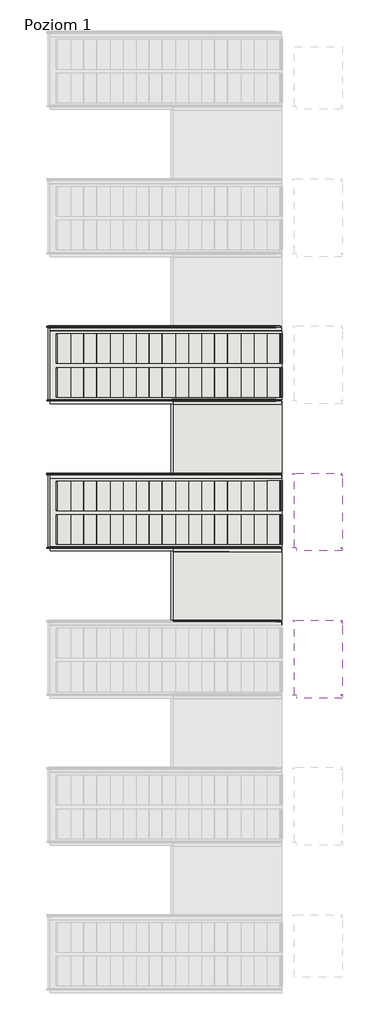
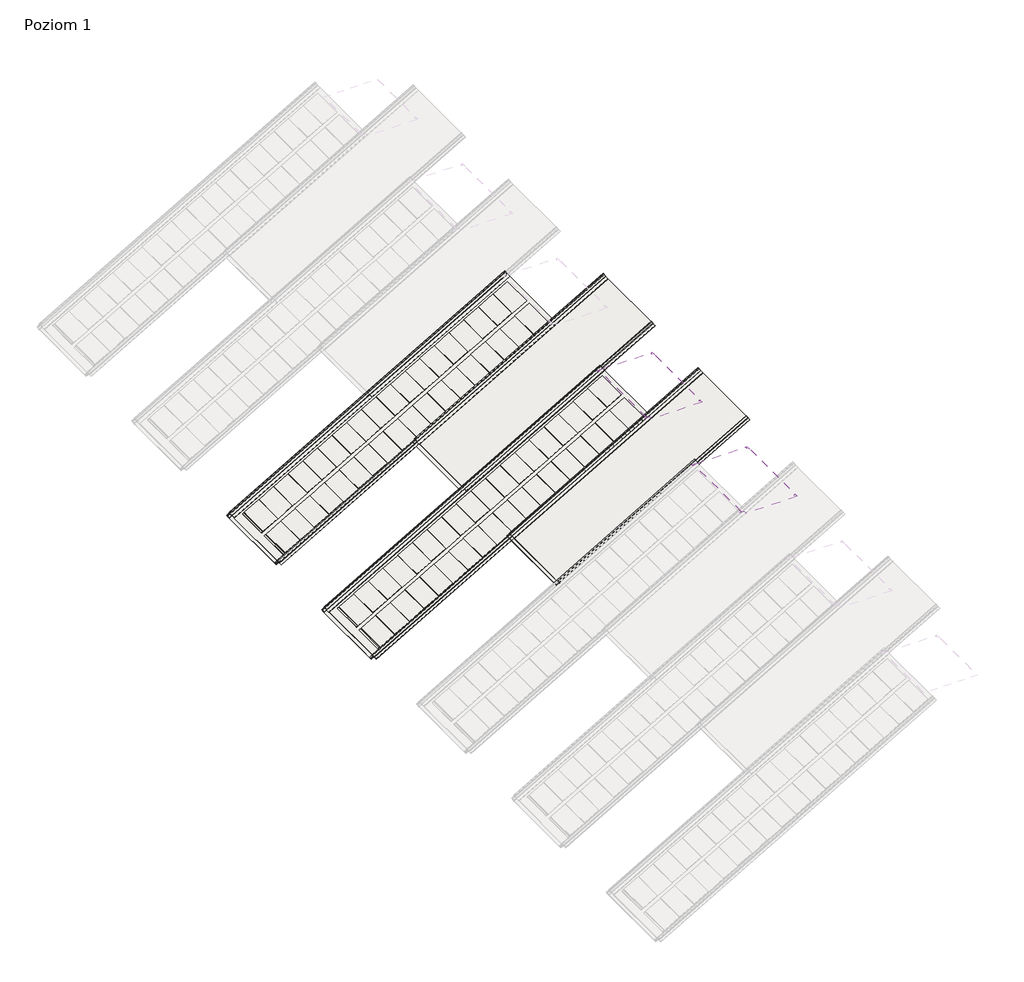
# One storey, part 3 of 5: 6 coverings.
"""IFC4 building model written with IfcOpenShell, lengths in millimetres."""

from ifc_helpers import new_model, si_unit, point, frame, frame_2d, origin, place, context, project, spatial, polyline, circle_curve, trimmed, segment, composite_curve, outline, extrude, transform, mapped, element, save
from components import covering_053faf2b

model = new_model("IFC4")

# Units and contexts
model_context = context("Model", 3, world=origin())
ifc_project = project(units=[si_unit("LENGTHUNIT", "METRE", prefix="MILLI")], contexts=[model_context])

# Site, building, storey
site = spatial("IfcSite", under=ifc_project)
building = spatial("IfcBuilding", under=site)
storey = spatial("IfcBuildingStorey", under=building, Name="Poziom 1", Elevation=3000.0)

# Coverings
placement = place(None, origin())
element("IfcCovering", 1, ObjectType="Zintegrowany dach fotowoltaiczny FIT L.P (pojedynczy arkusz) : Zintegrowany dach fotowoltaiczny FIT L.P (pojedynczy arkusz)", at=placement, inside=storey, context=model_context, shape_type="SweptSolid", body=[
    extrude(outline(composite_curve([segment(polyline([(17.2875351, 0.0), (0.0, 0.0)]), True, "CONTINUOUS"), segment(trimmed(circle_curve(frame_2d((0.0, -2.8)), 2.8), [point((0.0, 0.0))], [point((-2.8, -2.8))], True, "CARTESIAN"), True, "CONTINUOUS"), segment(polyline([(-2.8, -2.8), (-2.8, -20.5940327)]), True, "CONTINUOUS"), segment(trimmed(circle_curve(frame_2d((-4.4133269, -20.3837808)), 1.6269694), [point((-2.8, -20.5940327))], [point((-5.8290282, -21.185541))], False, "CARTESIAN"), True, "CONTINUOUS"), segment(polyline([(-5.8290282, -21.185541), (-11.2859094, -8.622424)]), True, "CONTINUOUS"), segment(trimmed(circle_curve(frame_2d((-9.3224649, -7.4245569)), 2.3), [point((-11.2859094, -8.622424))], [point((-10.3763841, -5.3802344))], False, "CARTESIAN"), True, "CONTINUOUS"), segment(polyline([(-10.3763841, -5.3802344), (-8.7036849, -4.7047108)]), True, "CONTINUOUS"), segment(trimmed(circle_curve(frame_2d((-9.0408607, -3.8698124)), 0.9004126), [point((-8.7036849, -4.7047108))], [point((-8.2514257, -3.4367591))], True, "CARTESIAN"), True, "CONTINUOUS"), segment(polyline([(-8.2514257, -3.4367591), (-10.1366978, 0.0), (-502.4735079, 0.0), (-504.4735079, -2.0), (-527.0645253, -2.0)]), True, "CONTINUOUS"), segment(trimmed(circle_curve(frame_2d((-527.0645253, -2.82435)), 0.82435), [point((-527.0645253, -2.0))], [point((-527.8888753, -2.82435))], True, "CARTESIAN"), True, "CONTINUOUS"), segment(polyline([(-527.8888753, -2.82435), (-527.8888753, -21.4999999)]), True, "CONTINUOUS"), segment(trimmed(circle_curve(frame_2d((-529.8888753, -21.4999999)), 2.0), [point((-527.8888753, -21.4999999))], [point((-529.8888753, -23.5))], False, "CARTESIAN"), True, "CONTINUOUS"), segment(polyline([(-529.8888753, -23.5), (-538.7124649, -23.5)]), True, "CONTINUOUS"), segment(trimmed(circle_curve(frame_2d((-538.7124649, -21.4999999)), 2.0), [point((-538.7124649, -23.5))], [point((-540.7124649, -21.4999999))], False, "CARTESIAN"), True, "CONTINUOUS"), segment(polyline([(-540.7124649, -21.4999999), (-540.7124649, -7.4245569)]), True, "CONTINUOUS"), segment(trimmed(circle_curve(frame_2d((-536.9124649, -7.4245569)), 3.8), [point((-540.7124649, -7.4245569))], [point((-538.602078, -4.0208519))], False, "CARTESIAN"), True, "CONTINUOUS"), segment(trimmed(circle_curve(frame_2d((-539.1177488, -2.9820395)), 1.1597619), [point((-538.602078, -4.0208519))], [point((-537.9725591, -2.798769))], True, "CARTESIAN"), True, "CONTINUOUS"), segment(polyline([(-537.9725591, -2.798769), (-538.8089749, -1.2740237), (-537.9322268, -0.7930739), (-537.1002451, -2.309736)]), True, "CONTINUOUS"), segment(trimmed(circle_curve(frame_2d((-538.6177488, -2.9820395)), 1.6597619), [point((-537.1002451, -2.309736))], [point((-537.8797605, -4.4687078))], False, "CARTESIAN"), True, "CONTINUOUS"), segment(trimmed(circle_curve(frame_2d((-536.4124649, -7.4245569)), 3.3), [point((-537.8797605, -4.4687078))], [point((-539.7124649, -7.4245569))], True, "CARTESIAN"), True, "CONTINUOUS"), segment(polyline([(-539.7124649, -7.4245569), (-539.7124649, -20.9999999)]), True, "CONTINUOUS"), segment(trimmed(circle_curve(frame_2d((-538.2124649, -20.9999999)), 1.5), [point((-539.7124649, -20.9999999))], [point((-538.2124649, -22.4999999))], True, "CARTESIAN"), True, "CONTINUOUS"), segment(polyline([(-538.2124649, -22.4999999), (-530.3888753, -22.4999999)]), True, "CONTINUOUS"), segment(trimmed(circle_curve(frame_2d((-530.3888753, -20.9999999)), 1.5), [point((-530.3888753, -22.4999999))], [point((-528.8888753, -20.9999999))], True, "CARTESIAN"), True, "CONTINUOUS"), segment(polyline([(-528.8888753, -20.9999999), (-528.8888753, -2.7363796)]), True, "CONTINUOUS"), segment(trimmed(circle_curve(frame_2d((-527.09, -2.8)), 1.8), [point((-528.8888753, -2.7363796))], [point((-527.09, -1.0))], False, "CARTESIAN"), True, "CONTINUOUS"), segment(polyline([(-527.09, -1.0), (-504.8877215, -1.0), (-502.8877215, 1.0), (-10.497252, 1.0)]), True, "CONTINUOUS"), segment(trimmed(circle_curve(frame_2d((-10.7205789, -0.9874922)), 2.0), [point((-10.497252, 1.0))], [point((-9.0887306, 0.1688258))], False, "CARTESIAN"), True, "CONTINUOUS"), segment(polyline([(-9.0887306, 0.1688258), (-7.1040334, -3.4491804)]), True, "CONTINUOUS"), segment(trimmed(circle_curve(frame_2d((-8.3318425, -4.1227085)), 1.4004126), [point((-7.1040334, -3.4491804))], [point((-7.8074327, -5.4212269))], False, "CARTESIAN"), True, "CONTINUOUS"), segment(polyline([(-7.8074327, -5.4212269), (-9.9530757, -6.28775)]), True, "CONTINUOUS"), segment(trimmed(circle_curve(frame_2d((-9.3224649, -7.4245569)), 1.3), [point((-9.9530757, -6.28775))], [point((-10.4001629, -8.151583))], True, "CARTESIAN"), True, "CONTINUOUS"), segment(polyline([(-10.4001629, -8.151583), (-4.9378013, -20.7273172)]), True, "CONTINUOUS"), segment(trimmed(circle_curve(frame_2d((-4.4133269, -20.3837808)), 0.6269694), [point((-4.9378013, -20.7273172))], [point((-3.8, -20.5138607))], True, "CARTESIAN"), True, "CONTINUOUS"), segment(polyline([(-3.8, -20.5138607), (-3.8, -2.8)]), True, "CONTINUOUS"), segment(trimmed(circle_curve(frame_2d((0.0, -2.8)), 3.8), [point((-3.8, -2.8))], [point((0.0, 1.0))], False, "CARTESIAN"), True, "CONTINUOUS"), segment(polyline([(0.0, 1.0), (17.2875351, 1.0), (17.2875351, 0.0)]), True, "CONTINUOUS")], self_intersect=False)), frame((597.6506789, -4712.5102619, 4261.5544457), z_axis=(0.8660254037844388, 0.0, 0.4999999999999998), x_axis=(0.0, -1.0, 0.0)), (0.0, 0.0, 1.0), 376.4773133),
    extrude(outline(composite_curve([segment(polyline([(28.1680323, -535.9799253), (40.9033235, -530.4482589)]), True, "CONTINUOUS"), segment(trimmed(circle_curve(frame_2d((41.6303496, -531.525957)), 1.3), [point((40.9033235, -530.4482589))], [point((42.7671565, -530.8953461))], False, "CARTESIAN"), True, "CONTINUOUS"), segment(polyline([(42.7671565, -530.8953461), (43.9725969, -533.8801997)]), True, "CONTINUOUS"), segment(trimmed(circle_curve(frame_2d((44.6041589, -533.6251419)), 0.6811204), [point((43.9725969, -533.8801997))], [point((44.9317436, -534.2223129))], True, "CARTESIAN"), True, "CONTINUOUS"), segment(polyline([(44.9317436, -534.2223129), (49.9999999, -531.442065), (49.9999999, -11.6479396)]), True, "CONTINUOUS"), segment(trimmed(circle_curve(frame_2d((49.17565, -11.6479396)), 0.82435), [point((49.9999999, -11.6479396))], [point((49.17565, -10.8235896))], True, "CARTESIAN"), True, "CONTINUOUS"), segment(polyline([(49.17565, -10.8235896), (30.0, -10.8235896)]), True, "CONTINUOUS"), segment(trimmed(circle_curve(frame_2d((30.0, -8.8235896)), 2.0), [point((30.0, -10.8235896))], [point((28.0, -8.8235896))], False, "CARTESIAN"), True, "CONTINUOUS"), segment(polyline([(28.0, -8.8235896), (28.0, -4.0)]), True, "CONTINUOUS"), segment(trimmed(circle_curve(frame_2d((30.0, -4.0)), 2.0), [point((28.0, -4.0))], [point((30.0, -2.0))], False, "CARTESIAN"), True, "CONTINUOUS"), segment(polyline([(30.0, -2.0), (42.075443, -2.0)]), True, "CONTINUOUS"), segment(trimmed(circle_curve(frame_2d((42.075443, -5.8)), 3.8), [point((42.075443, -2.0))], [point((45.479148, -4.1103869))], False, "CARTESIAN"), True, "CONTINUOUS"), segment(trimmed(circle_curve(frame_2d((46.5179605, -3.5947161)), 1.1597619), [point((45.479148, -4.1103869))], [point((46.7012309, -4.7399058))], True, "CARTESIAN"), True, "CONTINUOUS"), segment(polyline([(46.7012309, -4.7399058), (48.2259762, -3.90349), (48.7069261, -4.7802381), (47.190264, -5.6122198)]), True, "CONTINUOUS"), segment(trimmed(circle_curve(frame_2d((46.5179605, -4.0947161)), 1.6597619), [point((47.190264, -5.6122198))], [point((45.0312921, -4.8327044))], False, "CARTESIAN"), True, "CONTINUOUS"), segment(trimmed(circle_curve(frame_2d((42.075443, -6.3)), 3.3), [point((45.0312921, -4.8327044))], [point((42.075443, -3.0))], True, "CARTESIAN"), True, "CONTINUOUS"), segment(polyline([(42.075443, -3.0), (30.5, -3.0)]), True, "CONTINUOUS"), segment(trimmed(circle_curve(frame_2d((30.5, -4.5)), 1.5), [point((30.5, -3.0))], [point((29.0, -4.5))], True, "CARTESIAN"), True, "CONTINUOUS"), segment(polyline([(29.0, -4.5), (29.0, -8.3235896)]), True, "CONTINUOUS"), segment(trimmed(circle_curve(frame_2d((30.5, -8.3235896)), 1.5), [point((29.0, -8.3235896))], [point((30.5, -9.8235896))], True, "CARTESIAN"), True, "CONTINUOUS"), segment(polyline([(30.5, -9.8235896), (49.2636204, -9.8235896)]), True, "CONTINUOUS"), segment(trimmed(circle_curve(frame_2d((49.1999999, -11.6224649)), 1.8), [point((49.2636204, -9.8235896))], [point((50.9999999, -11.6224649))], False, "CARTESIAN"), True, "CONTINUOUS"), segment(polyline([(50.9999999, -11.6224649), (50.9999999, -530.8500476)]), True, "CONTINUOUS"), segment(trimmed(circle_curve(frame_2d((48.9999999, -530.8500476)), 2.0), [point((50.9999999, -530.8500476))], [point((49.9618997, -532.6035438))], False, "CARTESIAN"), True, "CONTINUOUS"), segment(polyline([(49.9618997, -532.6035438), (45.1357072, -535.2510049)]), True, "CONTINUOUS"), segment(trimmed(circle_curve(frame_2d((44.462179, -534.0231958)), 1.4004126), [point((45.1357072, -535.2510049))], [point((43.1636607, -534.5476056))], False, "CARTESIAN"), True, "CONTINUOUS"), segment(polyline([(43.1636607, -534.5476056), (41.792464, -531.152314), (28.7259873, -536.8278332)]), True, "CONTINUOUS"), segment(trimmed(circle_curve(frame_2d((28.5207601, -536.3553487)), 0.5151308), [point((28.7259873, -536.8278332))], [point((28.1680323, -535.9799253))], False, "CARTESIAN"), True, "CONTINUOUS")], self_intersect=False)), frame((555.8301708, -4171.797797, 4293.9896904), z_axis=(0.8660254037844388, 0.0, 0.4999999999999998), x_axis=(0.4999999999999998, 0.0, -0.8660254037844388)), (0.0, 0.0, 1.0), 30.0),
])
element("IfcCovering", 2, ObjectType="Zintegrowany dach fotowoltaiczny FIT L.P (pojedynczy arkusz) : Zintegrowany dach fotowoltaiczny FIT L.P (pojedynczy arkusz)", at=placement, inside=storey, context=model_context, shape_type="SweptSolid", body=[
    extrude(outline(composite_curve([segment(polyline([(17.2875351, 0.0), (0.0, 0.0)]), True, "CONTINUOUS"), segment(trimmed(circle_curve(frame_2d((0.0, -2.8)), 2.8), [point((0.0, 0.0))], [point((-2.8, -2.8))], True, "CARTESIAN"), True, "CONTINUOUS"), segment(polyline([(-2.8, -2.8), (-2.8, -20.5940327)]), True, "CONTINUOUS"), segment(trimmed(circle_curve(frame_2d((-4.4133269, -20.3837808)), 1.6269694), [point((-2.8, -20.5940327))], [point((-5.8290282, -21.185541))], False, "CARTESIAN"), True, "CONTINUOUS"), segment(polyline([(-5.8290282, -21.185541), (-11.2859094, -8.622424)]), True, "CONTINUOUS"), segment(trimmed(circle_curve(frame_2d((-9.3224649, -7.4245569)), 2.3), [point((-11.2859094, -8.622424))], [point((-10.3763841, -5.3802344))], False, "CARTESIAN"), True, "CONTINUOUS"), segment(polyline([(-10.3763841, -5.3802344), (-8.7036849, -4.7047108)]), True, "CONTINUOUS"), segment(trimmed(circle_curve(frame_2d((-9.0408607, -3.8698124)), 0.9004126), [point((-8.7036849, -4.7047108))], [point((-8.2514257, -3.4367591))], True, "CARTESIAN"), True, "CONTINUOUS"), segment(polyline([(-8.2514257, -3.4367591), (-10.1366978, 0.0), (-502.4735079, 0.0), (-504.4735079, -2.0), (-527.0645253, -2.0)]), True, "CONTINUOUS"), segment(trimmed(circle_curve(frame_2d((-527.0645253, -2.82435)), 0.82435), [point((-527.0645253, -2.0))], [point((-527.8888753, -2.82435))], True, "CARTESIAN"), True, "CONTINUOUS"), segment(polyline([(-527.8888753, -2.82435), (-527.8888753, -21.4999999)]), True, "CONTINUOUS"), segment(trimmed(circle_curve(frame_2d((-529.8888753, -21.4999999)), 2.0), [point((-527.8888753, -21.4999999))], [point((-529.8888753, -23.5))], False, "CARTESIAN"), True, "CONTINUOUS"), segment(polyline([(-529.8888753, -23.5), (-538.7124649, -23.5)]), True, "CONTINUOUS"), segment(trimmed(circle_curve(frame_2d((-538.7124649, -21.4999999)), 2.0), [point((-538.7124649, -23.5))], [point((-540.7124649, -21.4999999))], False, "CARTESIAN"), True, "CONTINUOUS"), segment(polyline([(-540.7124649, -21.4999999), (-540.7124649, -7.4245569)]), True, "CONTINUOUS"), segment(trimmed(circle_curve(frame_2d((-536.9124649, -7.4245569)), 3.8), [point((-540.7124649, -7.4245569))], [point((-538.602078, -4.0208519))], False, "CARTESIAN"), True, "CONTINUOUS"), segment(trimmed(circle_curve(frame_2d((-539.1177488, -2.9820394)), 1.1597619), [point((-538.602078, -4.0208519))], [point((-537.9725591, -2.798769))], True, "CARTESIAN"), True, "CONTINUOUS"), segment(polyline([(-537.9725591, -2.798769), (-538.8089749, -1.2740237), (-537.9322268, -0.7930738), (-537.1002451, -2.3097359)]), True, "CONTINUOUS"), segment(trimmed(circle_curve(frame_2d((-538.6177488, -2.9820394)), 1.6597619), [point((-537.1002451, -2.3097359))], [point((-537.8797605, -4.4687078))], False, "CARTESIAN"), True, "CONTINUOUS"), segment(trimmed(circle_curve(frame_2d((-536.4124649, -7.4245569)), 3.3), [point((-537.8797605, -4.4687078))], [point((-539.7124649, -7.4245569))], True, "CARTESIAN"), True, "CONTINUOUS"), segment(polyline([(-539.7124649, -7.4245569), (-539.7124649, -20.9999999)]), True, "CONTINUOUS"), segment(trimmed(circle_curve(frame_2d((-538.2124649, -20.9999999)), 1.5), [point((-539.7124649, -20.9999999))], [point((-538.2124649, -22.4999999))], True, "CARTESIAN"), True, "CONTINUOUS"), segment(polyline([(-538.2124649, -22.4999999), (-530.3888753, -22.4999999)]), True, "CONTINUOUS"), segment(trimmed(circle_curve(frame_2d((-530.3888753, -20.9999999)), 1.5), [point((-530.3888753, -22.4999999))], [point((-528.8888753, -20.9999999))], True, "CARTESIAN"), True, "CONTINUOUS"), segment(polyline([(-528.8888753, -20.9999999), (-528.8888753, -2.7363796)]), True, "CONTINUOUS"), segment(trimmed(circle_curve(frame_2d((-527.09, -2.8)), 1.8), [point((-528.8888753, -2.7363796))], [point((-527.09, -1.0))], False, "CARTESIAN"), True, "CONTINUOUS"), segment(polyline([(-527.09, -1.0), (-504.8877215, -1.0), (-502.8877215, 1.0), (-10.497252, 1.0)]), True, "CONTINUOUS"), segment(trimmed(circle_curve(frame_2d((-10.7205789, -0.9874921)), 2.0), [point((-10.497252, 1.0))], [point((-9.0887306, 0.1688258))], False, "CARTESIAN"), True, "CONTINUOUS"), segment(polyline([(-9.0887306, 0.1688258), (-7.1040334, -3.4491804)]), True, "CONTINUOUS"), segment(trimmed(circle_curve(frame_2d((-8.3318425, -4.1227085)), 1.4004126), [point((-7.1040334, -3.4491804))], [point((-7.8074327, -5.4212269))], False, "CARTESIAN"), True, "CONTINUOUS"), segment(polyline([(-7.8074327, -5.4212269), (-9.9530757, -6.2877499)]), True, "CONTINUOUS"), segment(trimmed(circle_curve(frame_2d((-9.3224649, -7.4245569)), 1.3), [point((-9.9530757, -6.2877499))], [point((-10.4001629, -8.151583))], True, "CARTESIAN"), True, "CONTINUOUS"), segment(polyline([(-10.4001629, -8.151583), (-4.9378013, -20.7273172)]), True, "CONTINUOUS"), segment(trimmed(circle_curve(frame_2d((-4.4133269, -20.3837808)), 0.6269694), [point((-4.9378013, -20.7273172))], [point((-3.8, -20.5138607))], True, "CARTESIAN"), True, "CONTINUOUS"), segment(polyline([(-3.8, -20.5138607), (-3.8, -2.8)]), True, "CONTINUOUS"), segment(trimmed(circle_curve(frame_2d((0.0, -2.8)), 3.8), [point((-3.8, -2.8))], [point((0.0, 1.0))], False, "CARTESIAN"), True, "CONTINUOUS"), segment(polyline([(0.0, 1.0), (17.2875351, 1.0), (17.2875351, 0.0)]), True, "CONTINUOUS")], self_intersect=False)), frame((-285.695233, -4185.5102619, 3751.5544457), z_axis=(0.8660254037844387, 0.0, 0.49999999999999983), x_axis=(0.0, -1.0, 0.0)), (0.0, 0.0, 1.0), 1396.4773133),
    extrude(outline(composite_curve([segment(polyline([(28.1680322, -535.9799253), (40.9033234, -530.4482589)]), True, "CONTINUOUS"), segment(trimmed(circle_curve(frame_2d((41.6303496, -531.525957)), 1.3), [point((40.9033234, -530.4482589))], [point((42.7671565, -530.8953461))], False, "CARTESIAN"), True, "CONTINUOUS"), segment(polyline([(42.7671565, -530.8953461), (43.9725969, -533.8801997)]), True, "CONTINUOUS"), segment(trimmed(circle_curve(frame_2d((44.6041589, -533.6251419)), 0.6811204), [point((43.9725969, -533.8801997))], [point((44.9317436, -534.2223129))], True, "CARTESIAN"), True, "CONTINUOUS"), segment(polyline([(44.9317436, -534.2223129), (49.9999999, -531.442065), (49.9999999, -11.6479396)]), True, "CONTINUOUS"), segment(trimmed(circle_curve(frame_2d((49.17565, -11.6479396)), 0.82435), [point((49.9999999, -11.6479396))], [point((49.17565, -10.8235896))], True, "CARTESIAN"), True, "CONTINUOUS"), segment(polyline([(49.17565, -10.8235896), (30.0, -10.8235896)]), True, "CONTINUOUS"), segment(trimmed(circle_curve(frame_2d((30.0, -8.8235896)), 2.0), [point((30.0, -10.8235896))], [point((28.0, -8.8235896))], False, "CARTESIAN"), True, "CONTINUOUS"), segment(polyline([(28.0, -8.8235896), (28.0, -4.0)]), True, "CONTINUOUS"), segment(trimmed(circle_curve(frame_2d((30.0, -4.0)), 2.0), [point((28.0, -4.0))], [point((30.0, -2.0))], False, "CARTESIAN"), True, "CONTINUOUS"), segment(polyline([(30.0, -2.0), (42.075443, -2.0)]), True, "CONTINUOUS"), segment(trimmed(circle_curve(frame_2d((42.075443, -5.8)), 3.8), [point((42.075443, -2.0))], [point((45.479148, -4.1103869))], False, "CARTESIAN"), True, "CONTINUOUS"), segment(trimmed(circle_curve(frame_2d((46.5179605, -3.5947161)), 1.1597619), [point((45.479148, -4.1103869))], [point((46.7012308, -4.7399058))], True, "CARTESIAN"), True, "CONTINUOUS"), segment(polyline([(46.7012308, -4.7399058), (48.2259762, -3.90349), (48.706926, -4.7802381), (47.190264, -5.6122198)]), True, "CONTINUOUS"), segment(trimmed(circle_curve(frame_2d((46.5179605, -4.0947161)), 1.6597619), [point((47.190264, -5.6122198))], [point((45.0312921, -4.8327044))], False, "CARTESIAN"), True, "CONTINUOUS"), segment(trimmed(circle_curve(frame_2d((42.075443, -6.3)), 3.3), [point((45.0312921, -4.8327044))], [point((42.075443, -3.0))], True, "CARTESIAN"), True, "CONTINUOUS"), segment(polyline([(42.075443, -3.0), (30.5, -3.0)]), True, "CONTINUOUS"), segment(trimmed(circle_curve(frame_2d((30.5, -4.5)), 1.5), [point((30.5, -3.0))], [point((29.0, -4.5))], True, "CARTESIAN"), True, "CONTINUOUS"), segment(polyline([(29.0, -4.5), (29.0, -8.3235896)]), True, "CONTINUOUS"), segment(trimmed(circle_curve(frame_2d((30.5, -8.3235896)), 1.5), [point((29.0, -8.3235896))], [point((30.5, -9.8235896))], True, "CARTESIAN"), True, "CONTINUOUS"), segment(polyline([(30.5, -9.8235896), (49.2636204, -9.8235896)]), True, "CONTINUOUS"), segment(trimmed(circle_curve(frame_2d((49.1999999, -11.6224649)), 1.8), [point((49.2636204, -9.8235896))], [point((50.9999999, -11.6224649))], False, "CARTESIAN"), True, "CONTINUOUS"), segment(polyline([(50.9999999, -11.6224649), (50.9999999, -530.8500476)]), True, "CONTINUOUS"), segment(trimmed(circle_curve(frame_2d((48.9999999, -530.8500476)), 2.0), [point((50.9999999, -530.8500476))], [point((49.9618996, -532.6035438))], False, "CARTESIAN"), True, "CONTINUOUS"), segment(polyline([(49.9618996, -532.6035438), (45.1357072, -535.2510049)]), True, "CONTINUOUS"), segment(trimmed(circle_curve(frame_2d((44.462179, -534.0231958)), 1.4004126), [point((45.1357072, -535.2510049))], [point((43.1636607, -534.5476056))], False, "CARTESIAN"), True, "CONTINUOUS"), segment(polyline([(43.1636607, -534.5476056), (41.792464, -531.152314), (28.7259872, -536.8278332)]), True, "CONTINUOUS"), segment(trimmed(circle_curve(frame_2d((28.5207601, -536.3553487)), 0.5151308), [point((28.7259872, -536.8278332))], [point((28.1680322, -535.9799253))], False, "CARTESIAN"), True, "CONTINUOUS")], self_intersect=False)), frame((-327.515741, -3644.797797, 3783.9896904), z_axis=(0.8660254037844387, 0.0, 0.49999999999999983), x_axis=(0.49999999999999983, 0.0, -0.8660254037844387)), (0.0, 0.0, 1.0), 30.0),
])
element("IfcCovering", 3, ObjectType="Zintegrowany dach fotowoltaiczny FIT L.P (pojedynczy arkusz) : Zintegrowany dach fotowoltaiczny FIT L.P (pojedynczy arkusz)", at=placement, inside=storey, context=model_context, shape_type="SweptSolid", body=[
    extrude(outline(composite_curve([segment(polyline([(17.2875351, 0.0), (0.0, 0.0)]), True, "CONTINUOUS"), segment(trimmed(circle_curve(frame_2d((0.0, -2.8)), 2.8), [point((0.0, 0.0))], [point((-2.8, -2.8))], True, "CARTESIAN"), True, "CONTINUOUS"), segment(polyline([(-2.8, -2.8), (-2.8, -20.5940327)]), True, "CONTINUOUS"), segment(trimmed(circle_curve(frame_2d((-4.4133269, -20.3837808)), 1.6269694), [point((-2.8, -20.5940327))], [point((-5.8290282, -21.185541))], False, "CARTESIAN"), True, "CONTINUOUS"), segment(polyline([(-5.8290282, -21.185541), (-11.2859094, -8.622424)]), True, "CONTINUOUS"), segment(trimmed(circle_curve(frame_2d((-9.3224649, -7.4245569)), 2.3), [point((-11.2859094, -8.622424))], [point((-10.3763841, -5.3802344))], False, "CARTESIAN"), True, "CONTINUOUS"), segment(polyline([(-10.3763841, -5.3802344), (-8.7036849, -4.7047108)]), True, "CONTINUOUS"), segment(trimmed(circle_curve(frame_2d((-9.0408607, -3.8698124)), 0.9004126), [point((-8.7036849, -4.7047108))], [point((-8.2514257, -3.4367591))], True, "CARTESIAN"), True, "CONTINUOUS"), segment(polyline([(-8.2514257, -3.4367591), (-10.1366978, 0.0), (-502.4735079, 0.0), (-504.4735079, -2.0), (-527.0645253, -2.0)]), True, "CONTINUOUS"), segment(trimmed(circle_curve(frame_2d((-527.0645253, -2.82435)), 0.82435), [point((-527.0645253, -2.0))], [point((-527.8888753, -2.82435))], True, "CARTESIAN"), True, "CONTINUOUS"), segment(polyline([(-527.8888753, -2.82435), (-527.8888753, -21.4999999)]), True, "CONTINUOUS"), segment(trimmed(circle_curve(frame_2d((-529.8888753, -21.4999999)), 2.0), [point((-527.8888753, -21.4999999))], [point((-529.8888753, -23.5))], False, "CARTESIAN"), True, "CONTINUOUS"), segment(polyline([(-529.8888753, -23.5), (-538.7124649, -23.5)]), True, "CONTINUOUS"), segment(trimmed(circle_curve(frame_2d((-538.7124649, -21.4999999)), 2.0), [point((-538.7124649, -23.5))], [point((-540.7124649, -21.4999999))], False, "CARTESIAN"), True, "CONTINUOUS"), segment(polyline([(-540.7124649, -21.4999999), (-540.7124649, -7.4245569)]), True, "CONTINUOUS"), segment(trimmed(circle_curve(frame_2d((-536.9124649, -7.4245569)), 3.8), [point((-540.7124649, -7.4245569))], [point((-538.602078, -4.0208519))], False, "CARTESIAN"), True, "CONTINUOUS"), segment(trimmed(circle_curve(frame_2d((-539.1177488, -2.9820395)), 1.1597619), [point((-538.602078, -4.0208519))], [point((-537.9725591, -2.798769))], True, "CARTESIAN"), True, "CONTINUOUS"), segment(polyline([(-537.9725591, -2.798769), (-538.8089749, -1.2740237), (-537.9322268, -0.7930739), (-537.1002451, -2.309736)]), True, "CONTINUOUS"), segment(trimmed(circle_curve(frame_2d((-538.6177488, -2.9820395)), 1.6597619), [point((-537.1002451, -2.309736))], [point((-537.8797605, -4.4687078))], False, "CARTESIAN"), True, "CONTINUOUS"), segment(trimmed(circle_curve(frame_2d((-536.4124649, -7.4245569)), 3.3), [point((-537.8797605, -4.4687078))], [point((-539.7124649, -7.4245569))], True, "CARTESIAN"), True, "CONTINUOUS"), segment(polyline([(-539.7124649, -7.4245569), (-539.7124649, -20.9999999)]), True, "CONTINUOUS"), segment(trimmed(circle_curve(frame_2d((-538.2124649, -20.9999999)), 1.5), [point((-539.7124649, -20.9999999))], [point((-538.2124649, -22.4999999))], True, "CARTESIAN"), True, "CONTINUOUS"), segment(polyline([(-538.2124649, -22.4999999), (-530.3888753, -22.4999999)]), True, "CONTINUOUS"), segment(trimmed(circle_curve(frame_2d((-530.3888753, -20.9999999)), 1.5), [point((-530.3888753, -22.4999999))], [point((-528.8888753, -20.9999999))], True, "CARTESIAN"), True, "CONTINUOUS"), segment(polyline([(-528.8888753, -20.9999999), (-528.8888753, -2.7363796)]), True, "CONTINUOUS"), segment(trimmed(circle_curve(frame_2d((-527.09, -2.8)), 1.8), [point((-528.8888753, -2.7363796))], [point((-527.09, -1.0))], False, "CARTESIAN"), True, "CONTINUOUS"), segment(polyline([(-527.09, -1.0), (-504.8877215, -1.0), (-502.8877215, 1.0), (-10.497252, 1.0)]), True, "CONTINUOUS"), segment(trimmed(circle_curve(frame_2d((-10.7205789, -0.9874922)), 2.0), [point((-10.497252, 1.0))], [point((-9.0887306, 0.1688258))], False, "CARTESIAN"), True, "CONTINUOUS"), segment(polyline([(-9.0887306, 0.1688258), (-7.1040334, -3.4491804)]), True, "CONTINUOUS"), segment(trimmed(circle_curve(frame_2d((-8.3318425, -4.1227085)), 1.4004126), [point((-7.1040334, -3.4491804))], [point((-7.8074327, -5.4212269))], False, "CARTESIAN"), True, "CONTINUOUS"), segment(polyline([(-7.8074327, -5.4212269), (-9.9530757, -6.28775)]), True, "CONTINUOUS"), segment(trimmed(circle_curve(frame_2d((-9.3224649, -7.4245569)), 1.3), [point((-9.9530757, -6.28775))], [point((-10.4001629, -8.151583))], True, "CARTESIAN"), True, "CONTINUOUS"), segment(polyline([(-10.4001629, -8.151583), (-4.9378013, -20.7273172)]), True, "CONTINUOUS"), segment(trimmed(circle_curve(frame_2d((-4.4133269, -20.3837808)), 0.6269694), [point((-4.9378013, -20.7273172))], [point((-3.8, -20.5138607))], True, "CARTESIAN"), True, "CONTINUOUS"), segment(polyline([(-3.8, -20.5138607), (-3.8, -2.8)]), True, "CONTINUOUS"), segment(trimmed(circle_curve(frame_2d((0.0, -2.8)), 3.8), [point((-3.8, -2.8))], [point((0.0, 1.0))], False, "CARTESIAN"), True, "CONTINUOUS"), segment(polyline([(0.0, 1.0), (17.2875351, 1.0), (17.2875351, 0.0)]), True, "CONTINUOUS")], self_intersect=False)), frame((597.6506789, -3658.5102619, 4261.5544457), z_axis=(0.8660254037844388, 0.0, 0.49999999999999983), x_axis=(0.0, -1.0, 0.0)), (0.0, 0.0, 1.0), 376.4773133),
    extrude(outline(composite_curve([segment(polyline([(28.1680323, -535.9799253), (40.9033235, -530.4482589)]), True, "CONTINUOUS"), segment(trimmed(circle_curve(frame_2d((41.6303496, -531.525957)), 1.3), [point((40.9033235, -530.4482589))], [point((42.7671565, -530.8953461))], False, "CARTESIAN"), True, "CONTINUOUS"), segment(polyline([(42.7671565, -530.8953461), (43.9725969, -533.8801997)]), True, "CONTINUOUS"), segment(trimmed(circle_curve(frame_2d((44.6041589, -533.6251419)), 0.6811204), [point((43.9725969, -533.8801997))], [point((44.9317436, -534.2223129))], True, "CARTESIAN"), True, "CONTINUOUS"), segment(polyline([(44.9317436, -534.2223129), (49.9999999, -531.442065), (49.9999999, -11.6479396)]), True, "CONTINUOUS"), segment(trimmed(circle_curve(frame_2d((49.17565, -11.6479396)), 0.82435), [point((49.9999999, -11.6479396))], [point((49.17565, -10.8235896))], True, "CARTESIAN"), True, "CONTINUOUS"), segment(polyline([(49.17565, -10.8235896), (30.0, -10.8235896)]), True, "CONTINUOUS"), segment(trimmed(circle_curve(frame_2d((30.0, -8.8235896)), 2.0), [point((30.0, -10.8235896))], [point((28.0, -8.8235896))], False, "CARTESIAN"), True, "CONTINUOUS"), segment(polyline([(28.0, -8.8235896), (28.0, -4.0)]), True, "CONTINUOUS"), segment(trimmed(circle_curve(frame_2d((30.0, -4.0)), 2.0), [point((28.0, -4.0))], [point((30.0, -2.0))], False, "CARTESIAN"), True, "CONTINUOUS"), segment(polyline([(30.0, -2.0), (42.075443, -2.0)]), True, "CONTINUOUS"), segment(trimmed(circle_curve(frame_2d((42.075443, -5.8)), 3.8), [point((42.075443, -2.0))], [point((45.479148, -4.1103869))], False, "CARTESIAN"), True, "CONTINUOUS"), segment(trimmed(circle_curve(frame_2d((46.5179605, -3.5947161)), 1.1597619), [point((45.479148, -4.1103869))], [point((46.7012309, -4.7399058))], True, "CARTESIAN"), True, "CONTINUOUS"), segment(polyline([(46.7012309, -4.7399058), (48.2259762, -3.90349), (48.7069261, -4.7802381), (47.190264, -5.6122198)]), True, "CONTINUOUS"), segment(trimmed(circle_curve(frame_2d((46.5179605, -4.0947161)), 1.6597619), [point((47.190264, -5.6122198))], [point((45.0312921, -4.8327044))], False, "CARTESIAN"), True, "CONTINUOUS"), segment(trimmed(circle_curve(frame_2d((42.075443, -6.3)), 3.3), [point((45.0312921, -4.8327044))], [point((42.075443, -3.0))], True, "CARTESIAN"), True, "CONTINUOUS"), segment(polyline([(42.075443, -3.0), (30.5, -3.0)]), True, "CONTINUOUS"), segment(trimmed(circle_curve(frame_2d((30.5, -4.5)), 1.5), [point((30.5, -3.0))], [point((29.0, -4.5))], True, "CARTESIAN"), True, "CONTINUOUS"), segment(polyline([(29.0, -4.5), (29.0, -8.3235896)]), True, "CONTINUOUS"), segment(trimmed(circle_curve(frame_2d((30.5, -8.3235896)), 1.5), [point((29.0, -8.3235896))], [point((30.5, -9.8235896))], True, "CARTESIAN"), True, "CONTINUOUS"), segment(polyline([(30.5, -9.8235896), (49.2636204, -9.8235896)]), True, "CONTINUOUS"), segment(trimmed(circle_curve(frame_2d((49.1999999, -11.6224649)), 1.8), [point((49.2636204, -9.8235896))], [point((50.9999999, -11.6224649))], False, "CARTESIAN"), True, "CONTINUOUS"), segment(polyline([(50.9999999, -11.6224649), (50.9999999, -530.8500476)]), True, "CONTINUOUS"), segment(trimmed(circle_curve(frame_2d((48.9999999, -530.8500476)), 2.0), [point((50.9999999, -530.8500476))], [point((49.9618997, -532.6035438))], False, "CARTESIAN"), True, "CONTINUOUS"), segment(polyline([(49.9618997, -532.6035438), (45.1357072, -535.2510049)]), True, "CONTINUOUS"), segment(trimmed(circle_curve(frame_2d((44.462179, -534.0231958)), 1.4004126), [point((45.1357072, -535.2510049))], [point((43.1636607, -534.5476056))], False, "CARTESIAN"), True, "CONTINUOUS"), segment(polyline([(43.1636607, -534.5476056), (41.792464, -531.152314), (28.7259873, -536.8278332)]), True, "CONTINUOUS"), segment(trimmed(circle_curve(frame_2d((28.5207601, -536.3553487)), 0.5151308), [point((28.7259873, -536.8278332))], [point((28.1680323, -535.9799253))], False, "CARTESIAN"), True, "CONTINUOUS")], self_intersect=False)), frame((555.8301708, -3117.797797, 4293.9896904), z_axis=(0.8660254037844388, 0.0, 0.49999999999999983), x_axis=(0.49999999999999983, 0.0, -0.8660254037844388)), (0.0, 0.0, 1.0), 30.0),
])
element("IfcCovering", 4, ObjectType="Zintegrowany dach fotowoltaiczny FIT L.P (pojedynczy arkusz) : Zintegrowany dach fotowoltaiczny FIT L.P (pojedynczy arkusz)", at=placement, inside=storey, context=model_context, shape_type="SweptSolid", body=[
    extrude(outline(composite_curve([segment(polyline([(17.2875351, 0.0), (0.0, 0.0)]), True, "CONTINUOUS"), segment(trimmed(circle_curve(frame_2d((0.0, -2.8)), 2.8), [point((0.0, 0.0))], [point((-2.8, -2.8))], True, "CARTESIAN"), True, "CONTINUOUS"), segment(polyline([(-2.8, -2.8), (-2.8, -20.5940327)]), True, "CONTINUOUS"), segment(trimmed(circle_curve(frame_2d((-4.4133269, -20.3837808)), 1.6269694), [point((-2.8, -20.5940327))], [point((-5.8290282, -21.185541))], False, "CARTESIAN"), True, "CONTINUOUS"), segment(polyline([(-5.8290282, -21.185541), (-11.2859094, -8.622424)]), True, "CONTINUOUS"), segment(trimmed(circle_curve(frame_2d((-9.3224649, -7.4245569)), 2.3), [point((-11.2859094, -8.622424))], [point((-10.3763841, -5.3802344))], False, "CARTESIAN"), True, "CONTINUOUS"), segment(polyline([(-10.3763841, -5.3802344), (-8.7036849, -4.7047108)]), True, "CONTINUOUS"), segment(trimmed(circle_curve(frame_2d((-9.0408607, -3.8698124)), 0.9004126), [point((-8.7036849, -4.7047108))], [point((-8.2514257, -3.4367591))], True, "CARTESIAN"), True, "CONTINUOUS"), segment(polyline([(-8.2514257, -3.4367591), (-10.1366978, 0.0), (-502.4735079, 0.0), (-504.4735079, -2.0), (-527.0645253, -2.0)]), True, "CONTINUOUS"), segment(trimmed(circle_curve(frame_2d((-527.0645253, -2.82435)), 0.82435), [point((-527.0645253, -2.0))], [point((-527.8888753, -2.82435))], True, "CARTESIAN"), True, "CONTINUOUS"), segment(polyline([(-527.8888753, -2.82435), (-527.8888753, -21.4999999)]), True, "CONTINUOUS"), segment(trimmed(circle_curve(frame_2d((-529.8888753, -21.4999999)), 2.0), [point((-527.8888753, -21.4999999))], [point((-529.8888753, -23.5))], False, "CARTESIAN"), True, "CONTINUOUS"), segment(polyline([(-529.8888753, -23.5), (-538.7124649, -23.5)]), True, "CONTINUOUS"), segment(trimmed(circle_curve(frame_2d((-538.7124649, -21.4999999)), 2.0), [point((-538.7124649, -23.5))], [point((-540.7124649, -21.4999999))], False, "CARTESIAN"), True, "CONTINUOUS"), segment(polyline([(-540.7124649, -21.4999999), (-540.7124649, -7.4245569)]), True, "CONTINUOUS"), segment(trimmed(circle_curve(frame_2d((-536.9124649, -7.4245569)), 3.8), [point((-540.7124649, -7.4245569))], [point((-538.602078, -4.0208519))], False, "CARTESIAN"), True, "CONTINUOUS"), segment(trimmed(circle_curve(frame_2d((-539.1177488, -2.9820394)), 1.1597619), [point((-538.602078, -4.0208519))], [point((-537.9725591, -2.798769))], True, "CARTESIAN"), True, "CONTINUOUS"), segment(polyline([(-537.9725591, -2.798769), (-538.8089749, -1.2740237), (-537.9322268, -0.7930738), (-537.1002451, -2.3097359)]), True, "CONTINUOUS"), segment(trimmed(circle_curve(frame_2d((-538.6177488, -2.9820394)), 1.6597619), [point((-537.1002451, -2.3097359))], [point((-537.8797605, -4.4687078))], False, "CARTESIAN"), True, "CONTINUOUS"), segment(trimmed(circle_curve(frame_2d((-536.4124649, -7.4245569)), 3.3), [point((-537.8797605, -4.4687078))], [point((-539.7124649, -7.4245569))], True, "CARTESIAN"), True, "CONTINUOUS"), segment(polyline([(-539.7124649, -7.4245569), (-539.7124649, -20.9999999)]), True, "CONTINUOUS"), segment(trimmed(circle_curve(frame_2d((-538.2124649, -20.9999999)), 1.5), [point((-539.7124649, -20.9999999))], [point((-538.2124649, -22.4999999))], True, "CARTESIAN"), True, "CONTINUOUS"), segment(polyline([(-538.2124649, -22.4999999), (-530.3888753, -22.4999999)]), True, "CONTINUOUS"), segment(trimmed(circle_curve(frame_2d((-530.3888753, -20.9999999)), 1.5), [point((-530.3888753, -22.4999999))], [point((-528.8888753, -20.9999999))], True, "CARTESIAN"), True, "CONTINUOUS"), segment(polyline([(-528.8888753, -20.9999999), (-528.8888753, -2.7363796)]), True, "CONTINUOUS"), segment(trimmed(circle_curve(frame_2d((-527.09, -2.8)), 1.8), [point((-528.8888753, -2.7363796))], [point((-527.09, -1.0))], False, "CARTESIAN"), True, "CONTINUOUS"), segment(polyline([(-527.09, -1.0), (-504.8877215, -1.0), (-502.8877215, 1.0), (-10.497252, 1.0)]), True, "CONTINUOUS"), segment(trimmed(circle_curve(frame_2d((-10.7205789, -0.9874921)), 2.0), [point((-10.497252, 1.0))], [point((-9.0887306, 0.1688258))], False, "CARTESIAN"), True, "CONTINUOUS"), segment(polyline([(-9.0887306, 0.1688258), (-7.1040334, -3.4491804)]), True, "CONTINUOUS"), segment(trimmed(circle_curve(frame_2d((-8.3318425, -4.1227085)), 1.4004126), [point((-7.1040334, -3.4491804))], [point((-7.8074327, -5.4212269))], False, "CARTESIAN"), True, "CONTINUOUS"), segment(polyline([(-7.8074327, -5.4212269), (-9.9530757, -6.2877499)]), True, "CONTINUOUS"), segment(trimmed(circle_curve(frame_2d((-9.3224649, -7.4245569)), 1.3), [point((-9.9530757, -6.2877499))], [point((-10.4001629, -8.151583))], True, "CARTESIAN"), True, "CONTINUOUS"), segment(polyline([(-10.4001629, -8.151583), (-4.9378013, -20.7273172)]), True, "CONTINUOUS"), segment(trimmed(circle_curve(frame_2d((-4.4133269, -20.3837808)), 0.6269694), [point((-4.9378013, -20.7273172))], [point((-3.8, -20.5138607))], True, "CARTESIAN"), True, "CONTINUOUS"), segment(polyline([(-3.8, -20.5138607), (-3.8, -2.8)]), True, "CONTINUOUS"), segment(trimmed(circle_curve(frame_2d((0.0, -2.8)), 3.8), [point((-3.8, -2.8))], [point((0.0, 1.0))], False, "CARTESIAN"), True, "CONTINUOUS"), segment(polyline([(0.0, 1.0), (17.2875351, 1.0), (17.2875351, 0.0)]), True, "CONTINUOUS")], self_intersect=False)), frame((-285.695233, -3131.5102619, 3751.5544457), z_axis=(0.8660254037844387, 0.0, 0.49999999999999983), x_axis=(0.0, -1.0, 0.0)), (0.0, 0.0, 1.0), 1396.4773133),
    extrude(outline(composite_curve([segment(polyline([(28.1680322, -535.9799253), (40.9033234, -530.4482589)]), True, "CONTINUOUS"), segment(trimmed(circle_curve(frame_2d((41.6303496, -531.525957)), 1.3), [point((40.9033234, -530.4482589))], [point((42.7671565, -530.8953461))], False, "CARTESIAN"), True, "CONTINUOUS"), segment(polyline([(42.7671565, -530.8953461), (43.9725969, -533.8801997)]), True, "CONTINUOUS"), segment(trimmed(circle_curve(frame_2d((44.6041589, -533.6251419)), 0.6811204), [point((43.9725969, -533.8801997))], [point((44.9317436, -534.2223129))], True, "CARTESIAN"), True, "CONTINUOUS"), segment(polyline([(44.9317436, -534.2223129), (49.9999999, -531.442065), (49.9999999, -11.6479396)]), True, "CONTINUOUS"), segment(trimmed(circle_curve(frame_2d((49.17565, -11.6479396)), 0.82435), [point((49.9999999, -11.6479396))], [point((49.17565, -10.8235896))], True, "CARTESIAN"), True, "CONTINUOUS"), segment(polyline([(49.17565, -10.8235896), (30.0, -10.8235896)]), True, "CONTINUOUS"), segment(trimmed(circle_curve(frame_2d((30.0, -8.8235896)), 2.0), [point((30.0, -10.8235896))], [point((28.0, -8.8235896))], False, "CARTESIAN"), True, "CONTINUOUS"), segment(polyline([(28.0, -8.8235896), (28.0, -4.0)]), True, "CONTINUOUS"), segment(trimmed(circle_curve(frame_2d((30.0, -4.0)), 2.0), [point((28.0, -4.0))], [point((30.0, -2.0))], False, "CARTESIAN"), True, "CONTINUOUS"), segment(polyline([(30.0, -2.0), (42.075443, -2.0)]), True, "CONTINUOUS"), segment(trimmed(circle_curve(frame_2d((42.075443, -5.8)), 3.8), [point((42.075443, -2.0))], [point((45.479148, -4.1103869))], False, "CARTESIAN"), True, "CONTINUOUS"), segment(trimmed(circle_curve(frame_2d((46.5179605, -3.5947161)), 1.1597619), [point((45.479148, -4.1103869))], [point((46.7012308, -4.7399058))], True, "CARTESIAN"), True, "CONTINUOUS"), segment(polyline([(46.7012308, -4.7399058), (48.2259762, -3.90349), (48.706926, -4.7802381), (47.190264, -5.6122198)]), True, "CONTINUOUS"), segment(trimmed(circle_curve(frame_2d((46.5179605, -4.0947161)), 1.6597619), [point((47.190264, -5.6122198))], [point((45.0312921, -4.8327044))], False, "CARTESIAN"), True, "CONTINUOUS"), segment(trimmed(circle_curve(frame_2d((42.075443, -6.3)), 3.3), [point((45.0312921, -4.8327044))], [point((42.075443, -3.0))], True, "CARTESIAN"), True, "CONTINUOUS"), segment(polyline([(42.075443, -3.0), (30.5, -3.0)]), True, "CONTINUOUS"), segment(trimmed(circle_curve(frame_2d((30.5, -4.5)), 1.5), [point((30.5, -3.0))], [point((29.0, -4.5))], True, "CARTESIAN"), True, "CONTINUOUS"), segment(polyline([(29.0, -4.5), (29.0, -8.3235896)]), True, "CONTINUOUS"), segment(trimmed(circle_curve(frame_2d((30.5, -8.3235896)), 1.5), [point((29.0, -8.3235896))], [point((30.5, -9.8235896))], True, "CARTESIAN"), True, "CONTINUOUS"), segment(polyline([(30.5, -9.8235896), (49.2636204, -9.8235896)]), True, "CONTINUOUS"), segment(trimmed(circle_curve(frame_2d((49.1999999, -11.6224649)), 1.8), [point((49.2636204, -9.8235896))], [point((50.9999999, -11.6224649))], False, "CARTESIAN"), True, "CONTINUOUS"), segment(polyline([(50.9999999, -11.6224649), (50.9999999, -530.8500476)]), True, "CONTINUOUS"), segment(trimmed(circle_curve(frame_2d((48.9999999, -530.8500476)), 2.0), [point((50.9999999, -530.8500476))], [point((49.9618996, -532.6035438))], False, "CARTESIAN"), True, "CONTINUOUS"), segment(polyline([(49.9618996, -532.6035438), (45.1357072, -535.2510049)]), True, "CONTINUOUS"), segment(trimmed(circle_curve(frame_2d((44.462179, -534.0231958)), 1.4004126), [point((45.1357072, -535.2510049))], [point((43.1636607, -534.5476056))], False, "CARTESIAN"), True, "CONTINUOUS"), segment(polyline([(43.1636607, -534.5476056), (41.792464, -531.152314), (28.7259872, -536.8278332)]), True, "CONTINUOUS"), segment(trimmed(circle_curve(frame_2d((28.5207601, -536.3553487)), 0.5151308), [point((28.7259872, -536.8278332))], [point((28.1680322, -535.9799253))], False, "CARTESIAN"), True, "CONTINUOUS")], self_intersect=False)), frame((-327.515741, -2590.797797, 3783.9896904), z_axis=(0.8660254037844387, 0.0, 0.49999999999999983), x_axis=(0.49999999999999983, 0.0, -0.8660254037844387)), (0.0, 0.0, 1.0), 30.0),
])
covering_shape = covering_053faf2b(model_context)
element("IfcCovering", 5, ObjectType="Zintegrowany dach fotowoltaiczny FIT VOLT (pojedynczy arkusz) : Zintegrowany dach fotowoltaiczny FIT VOLT (pojedynczy arkusz)", at=placement, inside=storey, context=model_context, shape_type="MappedRepresentation", body=[
    mapped(covering_shape, transform((186.7886121, -3651.2095918, 4023.1884203), x_axis=(0.8660254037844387, 0.0, 0.4999999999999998), y_axis=(0.0, 1.0, 0.0), z_axis=(-0.49999999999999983, 0.0, 0.8660254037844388))),
])
element("IfcCovering", 6, ObjectType="Zintegrowany dach fotowoltaiczny FIT VOLT (pojedynczy arkusz) : Zintegrowany dach fotowoltaiczny FIT VOLT (pojedynczy arkusz)", at=placement, inside=storey, context=model_context, shape_type="MappedRepresentation", body=[
    mapped(covering_shape, transform((186.7886121, -2597.2095918, 4023.1884203), x_axis=(0.8660254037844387, 0.0, 0.49999999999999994), y_axis=(0.0, 1.0, 0.0), z_axis=(-0.49999999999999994, 0.0, 0.8660254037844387))),
])

save(model, "model.ifc")
